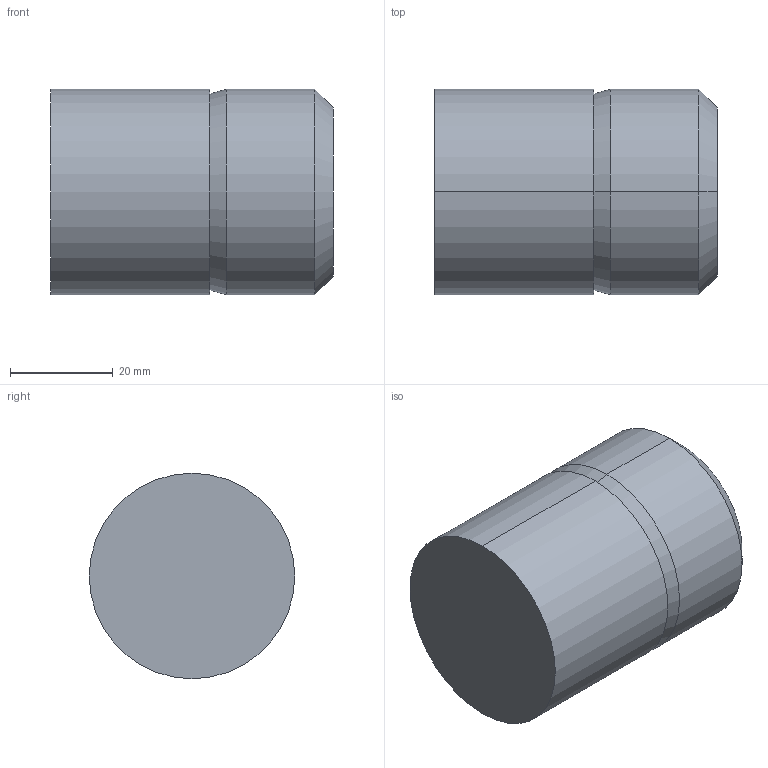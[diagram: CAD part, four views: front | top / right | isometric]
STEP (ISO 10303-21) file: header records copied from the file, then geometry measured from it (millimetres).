
FILE_DESCRIPTION (( 'STEP AP203' ), '1' );
FILE_NAME ('S3-40.STEP', '2002-08-16T10:49:29', ( '.' ), ( '.' ), 'SwSTEP 2.0', 'SolidWorks 2001340', '' );
FILE_SCHEMA (( 'CONFIG_CONTROL_DESIGN' ));
Length unit declared in the file: millimetre
Products named in the file (1): S3-40
Bounding box: 55 x 40 x 40 mm (x, y, z)
Volume: 68179.7 mm3; surface area: 9253.6 mm2
Topology: 1 solids, 1 shells, 11 faces, 20 edges, 12 vertices
Faces by surface type: cone 4, cylinder 4, plane 3
Entity records: 351 total; most frequent: DIRECTION 56, CARTESIAN_POINT 44, ORIENTED_EDGE 40, AXIS2_PLACEMENT_3D 24, EDGE_CURVE 20, CIRCLE 12, EDGE_LOOP 12, VERTEX_POINT 12
